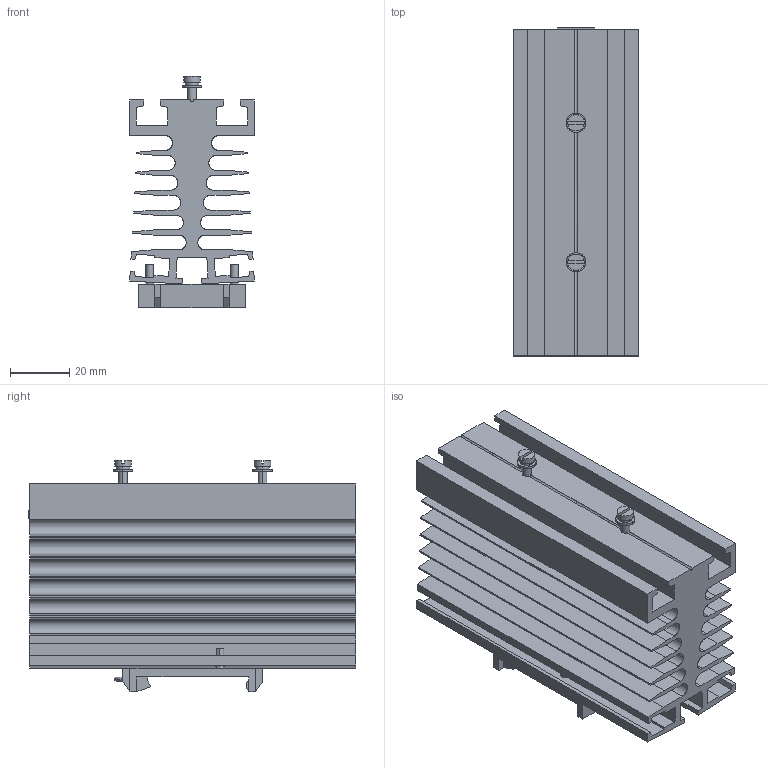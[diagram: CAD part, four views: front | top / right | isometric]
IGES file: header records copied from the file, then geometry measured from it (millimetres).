
Start section: SolidWorks IGES file using analytic representation for surfaces
Global section: file name: D:\X - Arquivos\PROEX\Empresas\P11 - METALTEX\01 - Produtos\IGES\7ª remessa\1ª etapa\TSZC-DT3.IGS; native system: SolidWorks 2012; preprocessor: SolidWorks 2012; author: Usuario; date: 190705.142654; units: millimetre
Bounding box: 42 x 110.5 x 78 mm (x, y, z)
Surface area: 82095.8 mm2 (no closed solid volume)
Topology: 0 solids, 0 shells, 399 faces, 3706 edges, 3706 vertices
Faces by surface type: bspline 330, revolution 69
